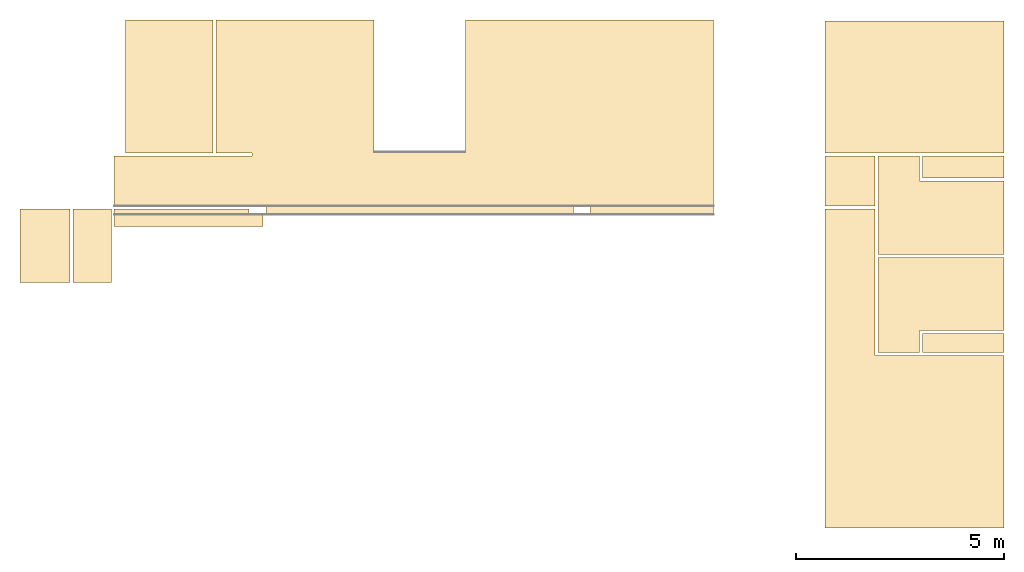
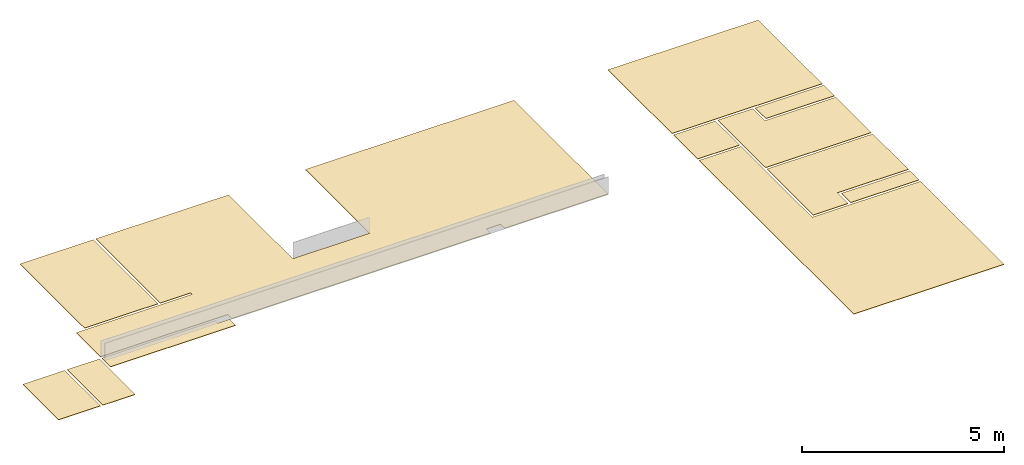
# One storey, part 2 of 2: 2 coverings.
"""IFC2X3 building model written with IfcOpenShell, lengths in metres."""

from ifc_helpers import new_model, entity, si_unit, converted_unit, derived_unit, direction, frame, frame_2d, origin, origin_2d_with_axis, place, context, subcontext, project, spatial, polyline, rectangle, outline, extrude, material, layer, layer_set, layer_usage, element, save


model = new_model("IFC2X3")

# Units and contexts
model_context = context("Model", 3, precision=1e-05, world=origin(), true_north=direction((6.12303176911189e-17, 1.0)))
body_context = subcontext(model_context, "Body", "Model", "MODEL_VIEW")
ifc_project = project(units=[si_unit("LENGTHUNIT", "METRE"), si_unit("AREAUNIT", "SQUARE_METRE"), si_unit("VOLUMEUNIT", "CUBIC_METRE"), converted_unit("PLANEANGLEUNIT", "DEGREE", entity("IfcRatioMeasure", 0.0174532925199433), si_unit("PLANEANGLEUNIT", "RADIAN"), dimensions=[0, 0, 0, 0, 0, 0, 0]), si_unit("MASSUNIT", "GRAM", prefix="KILO"), derived_unit("MASSDENSITYUNIT", [(si_unit("MASSUNIT", "GRAM", prefix="KILO"), 1), (si_unit("LENGTHUNIT", "METRE"), -3)]), si_unit("TIMEUNIT", "SECOND"), si_unit("FREQUENCYUNIT", "HERTZ"), si_unit("THERMODYNAMICTEMPERATUREUNIT", "DEGREE_CELSIUS"), derived_unit("THERMALTRANSMITTANCEUNIT", [(si_unit("MASSUNIT", "GRAM", prefix="KILO"), 1), (si_unit("THERMODYNAMICTEMPERATUREUNIT", "KELVIN"), -1), (si_unit("TIMEUNIT", "SECOND"), -3)]), derived_unit("VOLUMETRICFLOWRATEUNIT", [(si_unit("LENGTHUNIT", "METRE"), 3), (si_unit("TIMEUNIT", "SECOND"), -1)]), si_unit("ELECTRICCURRENTUNIT", "AMPERE"), si_unit("ELECTRICVOLTAGEUNIT", "VOLT"), si_unit("POWERUNIT", "WATT"), si_unit("FORCEUNIT", "NEWTON", prefix="KILO"), si_unit("ILLUMINANCEUNIT", "LUX"), si_unit("LUMINOUSFLUXUNIT", "LUMEN"), si_unit("LUMINOUSINTENSITYUNIT", "CANDELA"), derived_unit("USERDEFINED", [(si_unit("MASSUNIT", "GRAM", prefix="KILO"), -1), (si_unit("LENGTHUNIT", "METRE"), -2), (si_unit("TIMEUNIT", "SECOND"), 3), (si_unit("LUMINOUSFLUXUNIT", "LUMEN"), 1)]), derived_unit("LINEARVELOCITYUNIT", [(si_unit("LENGTHUNIT", "METRE"), 1), (si_unit("TIMEUNIT", "SECOND"), -1)]), si_unit("PRESSUREUNIT", "PASCAL"), derived_unit("USERDEFINED", [(si_unit("LENGTHUNIT", "METRE"), -2), (si_unit("MASSUNIT", "GRAM", prefix="KILO"), 1), (si_unit("TIMEUNIT", "SECOND"), -2)])], contexts=[model_context])

# Site, building, storey
site_placement = place(None, origin())
site = spatial("IfcSite", under=ifc_project, at=site_placement, Name="Surface", CompositionType="ELEMENT")
building_placement = place(site_placement, origin())
building = spatial("IfcBuilding", under=site, at=building_placement, CompositionType="ELEMENT")
storey_placement = place(building_placement, frame((0.0, 0.0, 2.5)))
storey = spatial("IfcBuildingStorey", under=building, at=storey_placement, Name="RDC Faux Plafond", CompositionType="ELEMENT", Elevation=2.5)

# Coverings
ifc_material = material(Name="Plâtre")
ifc_layer = layer(ifc_material, 0.015)
ifc_layer_set = layer_set([ifc_layer], Name="Plafond composé:Plafond ba13")
ifc_layer_usage_1 = layer_usage(ifc_layer_set, "AXIS3", "NEGATIVE", 0.0)
covering_1_placement = place(storey_placement, origin())
element("IfcCovering", 1, at=covering_1_placement, inside=storey, material=ifc_layer_usage_1, Name="Plafond composé:Plafond ba13", ObjectType="Plafond composé:Plafond ba13", PredefinedType="CEILING", context=body_context, shape_type="SweptSolid", body=[
    extrude(rectangle(XDim=4.29999999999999, YDim=3.18, at=origin_2d_with_axis()), frame((14.2975111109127, 5.93701067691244, 0.0), z_axis=(0.0, 0.0, 1.0), x_axis=(-1.0, 0.0, 0.0)), (0.0, 0.0, 1.0), 0.0149999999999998),
    extrude(rectangle(XDim=1.2, YDim=1.2, at=frame_2d((-1.0547118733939e-15, -2.77555756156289e-16), x_axis=(1.0, 0.0))), frame((12.7475111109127, 3.67701067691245, 0.0), z_axis=(0.0, 0.0, 1.0), x_axis=(-1.0, 0.0, 0.0)), (0.0, 0.0, 1.0), 0.0149999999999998),
    extrude(rectangle(XDim=1.95999999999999, YDim=0.530000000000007, at=frame_2d((-1.0547118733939e-15, -2.4980018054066e-16), x_axis=(1.0, 0.0))), frame((15.4675111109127, 4.01201067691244, 0.0), z_axis=(0.0, 0.0, 1.0), x_axis=(-1.0, 0.0, 0.0)), (0.0, 0.0, 1.0), 0.0149999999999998),
    extrude(rectangle(XDim=1.96, YDim=0.460000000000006, at=origin_2d_with_axis()), frame((15.4675111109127, -0.222989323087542, 0.0), z_axis=(0.0, 0.0, 1.0), x_axis=(-1.0, 0.0, 0.0)), (0.0, 0.0, 1.0), 0.0149999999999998),
    extrude(outline(polyline([(-0.941666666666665, -0.343333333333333), (-0.941666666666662, -1.34333333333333), (1.35333333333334, -1.34333333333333), (1.35333333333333, 1.68666666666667), (-0.411666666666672, 1.68666666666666), (-0.411666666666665, -0.343333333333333), (-0.941666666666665, -0.343333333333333)])), frame((14.760844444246, 0.488677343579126, 0.0), z_axis=(0.0, 0.0, -1.0), x_axis=(0.0, 1.0, 0.0)), (0.0, 0.0, -1.0), 0.0149999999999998),
    extrude(outline(polyline([(0.343333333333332, -0.988333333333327), (1.34333333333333, -0.988333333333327), (1.34333333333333, 1.37666666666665), (-1.68666666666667, 1.37666666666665), (-1.68666666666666, -0.388333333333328), (0.34333333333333, -0.388333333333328), (0.343333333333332, -0.988333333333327)])), frame((14.760844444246, 3.28867734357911, 0.0), z_axis=(0.0, 0.0, 1.0), x_axis=(-1.0, 0.0, 0.0)), (0.0, 0.0, 1.0), 0.0149999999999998),
    extrude(outline(polyline([(0.633333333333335, -3.7333333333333), (1.83333333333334, -3.7333333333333), (1.83333333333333, 3.93666666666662), (-2.46666666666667, 3.93666666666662), (-2.46666666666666, -0.20333333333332), (0.633333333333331, -0.203333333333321), (0.633333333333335, -3.7333333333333)])), frame((13.980844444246, -0.726322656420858, 0.0), z_axis=(0.0, 0.0, 1.0), x_axis=(-1.0, 0.0, 0.0)), (0.0, 0.0, 1.0), 0.0149999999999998),
])
ifc_layer_usage_2 = layer_usage(ifc_layer_set, "AXIS3", "NEGATIVE", 0.0)
covering_2_placement = place(storey_placement, origin())
element("IfcCovering", 2, at=covering_2_placement, inside=storey, material=ifc_layer_usage_2, Name="Plafond composé:Plafond ba13", ObjectType="Plafond composé:Plafond ba13", PredefinedType="CEILING", context=body_context, shape_type="SweptSolid", body=[
    extrude(outline(polyline([(3.46277777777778, 0.166075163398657), (6.77777777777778, 0.166075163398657), (6.77777777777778, 1.36607516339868), (3.13277777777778, 1.36607516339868), (3.13277777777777, 1.56607516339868), (-4.26722222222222, 1.56607516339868), (-4.26722222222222, 1.36607516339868), (-4.66722222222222, 1.36607516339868), (-4.66722222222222, 1.56607516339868), (-7.63722222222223, 1.56607516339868), (-7.63722222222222, -3.10392483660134), (-1.66722222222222, -3.10392483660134), (-1.66722222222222, 0.0813986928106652), (0.532777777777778, 0.0813986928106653), (0.532777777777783, -3.10392483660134), (4.33277777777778, -3.10392483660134), (4.33277777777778, 0.0960751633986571), (3.46277777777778, 0.096075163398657), (3.46277777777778, 0.166075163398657)])), frame((1.83028888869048, 4.44308584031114, 0.0), z_axis=(0.0, 0.0, 1.0), x_axis=(-1.0, 0.0, 0.0)), (0.0, 0.0, 1.0), 0.0149999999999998),
    extrude(rectangle(XDim=1.2, YDim=1.77, at=origin_2d_with_axis()), frame((-6.6124888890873, 2.12201067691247, 0.0), z_axis=(0.0, 0.0, 1.0), x_axis=(-1.0, 0.0, 0.0)), (0.0, 0.0, 1.0), 0.0149999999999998),
    extrude(rectangle(XDim=2.1, YDim=3.20000000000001, at=frame_2d((-5.55111512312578e-16, 2.22044604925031e-16), x_axis=(1.0, 0.0))), frame((-3.62248888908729, 5.9470106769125, 0.0), z_axis=(0.0, 0.0, 1.0), x_axis=(-1.0, 0.0, 0.0)), (0.0, 0.0, 1.0), 0.0149999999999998),
    extrude(rectangle(XDim=0.924999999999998, YDim=1.77, at=frame_2d((1.63757896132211e-15, -5.55111512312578e-16), x_axis=(1.0, 0.0))), frame((-5.4799888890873, 2.12201067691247, 0.0), z_axis=(0.0, 0.0, 1.0), x_axis=(-1.0, 0.0, 0.0)), (0.0, 0.0, 1.0), 0.0149999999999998),
    extrude(outline(polyline([(-0.971666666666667, -0.186666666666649), (2.27333333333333, -0.186666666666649), (2.27333333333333, 0.243333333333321), (-1.30166666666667, 0.243333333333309), (-1.30166666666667, -0.0566666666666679), (-0.971666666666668, -0.0566666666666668), (-0.971666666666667, -0.186666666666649)])), frame((-2.67415555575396, 2.82034401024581, 0.0), z_axis=(0.0, 0.0, 1.0), x_axis=(-1.0, 0.0, 0.0)), (0.0, 0.0, 1.0), 0.0149999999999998),
])

save(model, "model.ifc")
